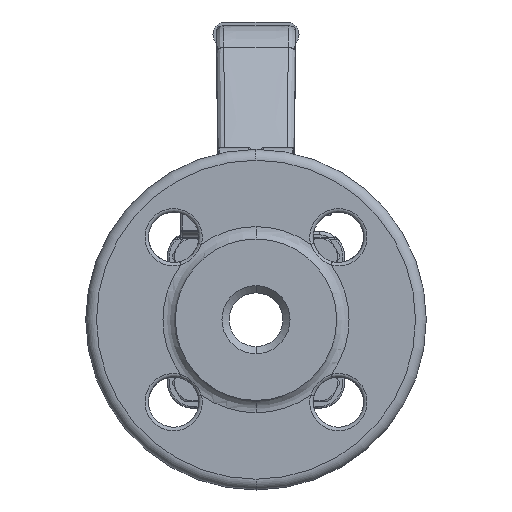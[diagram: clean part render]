
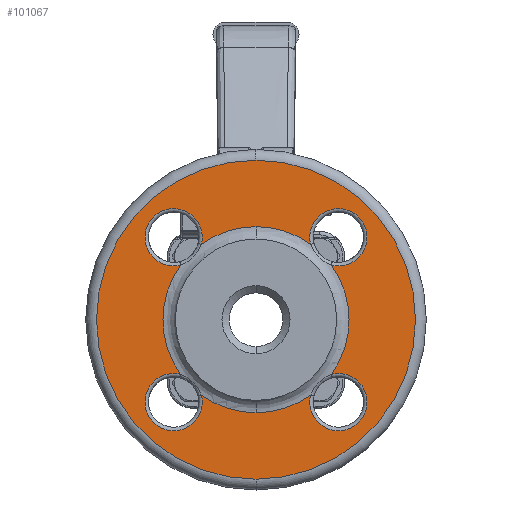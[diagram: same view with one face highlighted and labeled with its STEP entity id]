
A CAD part, left-side view. The second image highlights one B-rep face of the part: STEP entity #101067.
In plain terms, the highlighted planar face has unit normal (-1, 0, 0).
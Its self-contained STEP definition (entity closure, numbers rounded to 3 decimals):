
#28492=CARTESIAN_POINT('',(-48.,0.,0.));
#28493=DIRECTION('',(1.,0.,0.));
#28494=DIRECTION('',(0.,0.,1.));
#28495=AXIS2_PLACEMENT_3D('',#28492,#28493,#28494);
#28507=CARTESIAN_POINT('',(-48.,0.,0.));
#28508=DIRECTION('',(1.,0.,0.));
#28509=DIRECTION('',(0.,0.,-1.));
#28510=AXIS2_PLACEMENT_3D('',#28507,#28508,#28509);
#28525=CARTESIAN_POINT('',(-48.,0.,0.));
#28526=DIRECTION('',(1.,0.,0.));
#28527=DIRECTION('',(0.,0.81,-0.586));
#28528=AXIS2_PLACEMENT_3D('',#28525,#28526,#28527);
#28530=CARTESIAN_POINT('',(-48.,0.,0.));
#28531=DIRECTION('',(1.,0.,0.));
#28532=DIRECTION('',(0.,0.,-1.));
#28533=AXIS2_PLACEMENT_3D('',#28530,#28531,#28532);
#28535=CARTESIAN_POINT('',(-48.,0.,0.));
#28536=DIRECTION('',(-1.,0.,0.));
#28537=DIRECTION('',(0.,0.,-1.));
#28538=AXIS2_PLACEMENT_3D('',#28535,#28536,#28537);
#28540=CARTESIAN_POINT('',(-48.,0.,0.));
#28541=DIRECTION('',(-1.,0.,0.));
#28542=DIRECTION('',(0.,-0.81,-0.586));
#28543=AXIS2_PLACEMENT_3D('',#28540,#28541,#28542);
#28545=CARTESIAN_POINT('',(-48.,0.,0.));
#28546=DIRECTION('',(-1.,0.,0.));
#28547=DIRECTION('',(0.,-0.586,0.81));
#28548=AXIS2_PLACEMENT_3D('',#28545,#28546,#28547);
#28550=CARTESIAN_POINT('',(-48.,0.,0.));
#28551=DIRECTION('',(1.,0.,0.));
#28552=DIRECTION('',(0.,0.586,0.81));
#28553=AXIS2_PLACEMENT_3D('',#28550,#28551,#28552);
#28555=CARTESIAN_POINT('',(-48.,22.981,22.981));
#28556=DIRECTION('',(1.,0.,0.));
#28557=DIRECTION('',(0.,-0.243,-0.97));
#28558=AXIS2_PLACEMENT_3D('',#28555,#28556,#28557);
#28580=CARTESIAN_POINT('',(-48.,15.221,
21.034));
#28603=CARTESIAN_POINT('',(-48.,21.034,
15.221));
#28664=CARTESIAN_POINT('',(-48.,-21.034,
15.221));
#28687=CARTESIAN_POINT('',(-48.,-15.221,
21.034));
#28718=CARTESIAN_POINT('',(-48.,-22.981,22.981));
#28719=DIRECTION('',(1.,0.,0.));
#28720=DIRECTION('',(0.,0.97,-0.243));
#28721=AXIS2_PLACEMENT_3D('',#28718,#28719,#28720);
#28781=CARTESIAN_POINT('',(-48.,-15.221,
-21.034));
#28804=CARTESIAN_POINT('',(-48.,-21.034,
-15.221));
#28835=CARTESIAN_POINT('',(-48.,-22.981,-22.981));
#28836=DIRECTION('',(1.,0.,0.));
#28837=DIRECTION('',(0.,0.243,0.97));
#28838=AXIS2_PLACEMENT_3D('',#28835,#28836,#28837);
#29030=CARTESIAN_POINT('',(-48.,21.034,
-15.221));
#29053=CARTESIAN_POINT('',(-48.,15.221,
-21.034));
#29084=CARTESIAN_POINT('',(-48.,22.981,-22.981));
#29085=DIRECTION('',(1.,0.,0.));
#29086=DIRECTION('',(0.,-0.97,0.243));
#29087=AXIS2_PLACEMENT_3D('',#29084,#29085,#29086);
#42191=CARTESIAN_POINT('',(-48.,0.,-44.5));
#42192=CARTESIAN_POINT('',(-48.,0.,44.5));
#42193=VERTEX_POINT('',#42191);
#42194=VERTEX_POINT('',#42192);
#43163=VERTEX_POINT('',#28580);
#43164=VERTEX_POINT('',#28603);
#43179=VERTEX_POINT('',#28664);
#43180=VERTEX_POINT('',#28687);
#43192=VERTEX_POINT('',#28781);
#43193=VERTEX_POINT('',#28804);
#43212=VERTEX_POINT('',#29030);
#43213=VERTEX_POINT('',#29053);
#43225=CARTESIAN_POINT('',(-48.,0.,25.964));
#43226=VERTEX_POINT('',#43225);
#43227=CARTESIAN_POINT('',(-48.,0.,-25.964));
#43228=VERTEX_POINT('',#43227);
#101036=CARTESIAN_POINT('',(-48.,0.,0.));
#101037=DIRECTION('',(-1.,0.,0.));
#101038=DIRECTION('',(0.,0.,1.));
#101039=AXIS2_PLACEMENT_3D('',#101036,#101037,#101038);
#101040=PLANE('',#101039);
#101041=ORIENTED_EDGE('',*,*,#101018,.T.);
#101042=ORIENTED_EDGE('',*,*,#101003,.T.);
#101043=EDGE_LOOP('',(#101041,#101042));
#101044=FACE_OUTER_BOUND('',#101043,.F.);
#101046=ORIENTED_EDGE('',*,*,#101045,.F.);
#101048=ORIENTED_EDGE('',*,*,#101047,.F.);
#101050=ORIENTED_EDGE('',*,*,#101049,.F.);
#101052=ORIENTED_EDGE('',*,*,#101051,.F.);
#101054=ORIENTED_EDGE('',*,*,#101053,.T.);
#101056=ORIENTED_EDGE('',*,*,#101055,.F.);
#101058=ORIENTED_EDGE('',*,*,#101057,.T.);
#101060=ORIENTED_EDGE('',*,*,#101059,.F.);
#101062=ORIENTED_EDGE('',*,*,#101061,.T.);
#101064=ORIENTED_EDGE('',*,*,#101063,.F.);
#101065=EDGE_LOOP('',(#101046,#101048,#101050,#101052,#101054,#101056,#101058,
#101060,#101062,#101064));
#101066=FACE_BOUND('',#101065,.F.);
#101067=ADVANCED_FACE('',(#101044,#101066),#101040,.T.);
#28496=CIRCLE('',#28495,44.5);
#28511=CIRCLE('',#28510,44.5);
#28529=CIRCLE('',#28528,25.964);
#28534=CIRCLE('',#28533,25.964);
#28539=CIRCLE('',#28538,25.964);
#28544=CIRCLE('',#28543,25.964);
#28549=CIRCLE('',#28548,25.964);
#28554=CIRCLE('',#28553,25.964);
#28559=CIRCLE('',#28558,8.);
#28722=CIRCLE('',#28721,8.);
#28839=CIRCLE('',#28838,8.);
#29088=CIRCLE('',#29087,8.);
#101003=EDGE_CURVE('',#42194,#42193,#28496,.T.);
#101018=EDGE_CURVE('',#42193,#42194,#28511,.T.);
#101045=EDGE_CURVE('',#43164,#43163,#28559,.T.);
#101047=EDGE_CURVE('',#43212,#43164,#28529,.T.);
#101049=EDGE_CURVE('',#43213,#43212,#29088,.T.);
#101051=EDGE_CURVE('',#43228,#43213,#28534,.T.);
#101053=EDGE_CURVE('',#43228,#43192,#28539,.T.);
#101055=EDGE_CURVE('',#43193,#43192,#28839,.T.);
#101057=EDGE_CURVE('',#43193,#43179,#28544,.T.);
#101059=EDGE_CURVE('',#43180,#43179,#28722,.T.);
#101061=EDGE_CURVE('',#43180,#43226,#28549,.T.);
#101063=EDGE_CURVE('',#43163,#43226,#28554,.T.);
